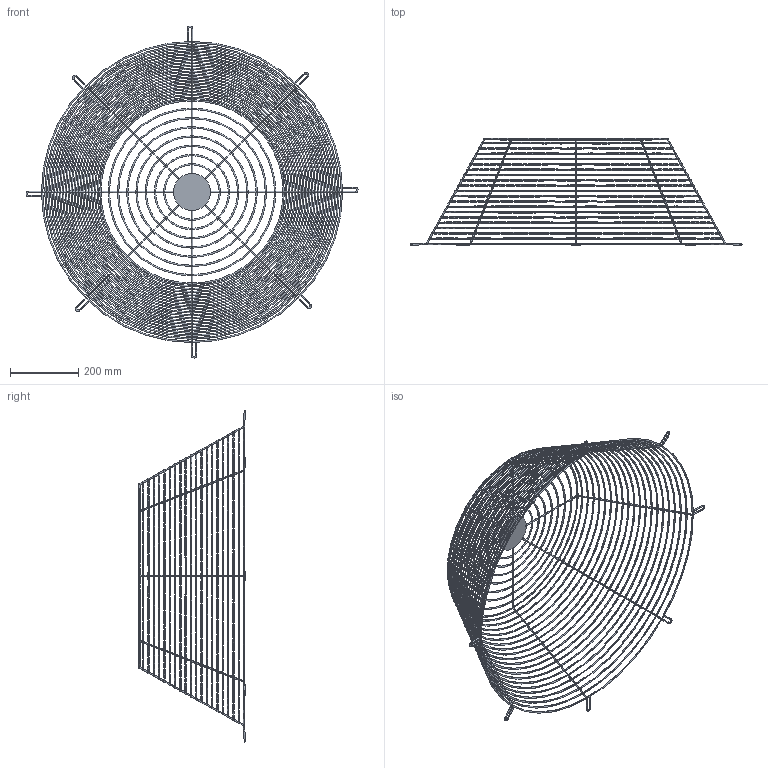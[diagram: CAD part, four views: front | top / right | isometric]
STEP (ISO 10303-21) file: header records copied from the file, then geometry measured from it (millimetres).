
FILE_DESCRIPTION(('STEP AP214'),'1');
FILE_NAME('accessory_5138837900.stp','2017-10-09T10:17:44',('TraceParts'),('TraceParts S.A.'),'Spatial InterOp 3D',' ',' ');
FILE_SCHEMA(('automotive_design'));
Length unit declared in the file: millimetre
Products named in the file (1): accessory_5138837900
Bounding box: 970 x 312 x 970 mm (x, y, z)
Volume: 769738.4 mm3; surface area: 746148.1 mm2
Topology: 1 solids, 1 shells, 364 faces, 2258 edges, 1422 vertices
Faces by surface type: torus 176, cylinder 122, plane 50, sphere 16
Entity records: 48313 total; most frequent: CARTESIAN_POINT 30030, ORIENTED_EDGE 4452, DIRECTION 2250, EDGE_CURVE 2226, VERTEX_POINT 1422, B_SPLINE_CURVE_WITH_KNOTS 1284, AXIS2_PLACEMENT_3D 943, CIRCLE 562
